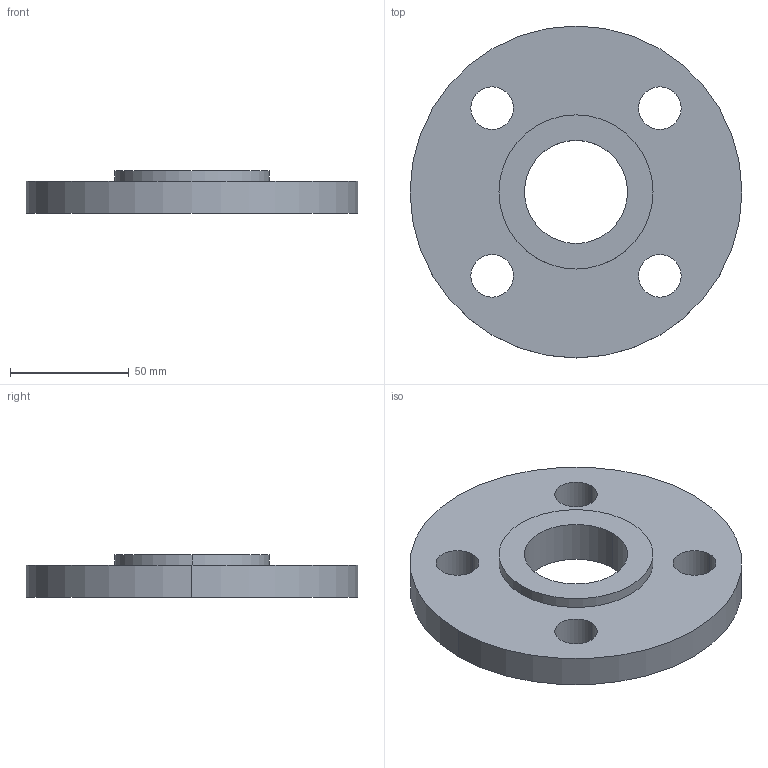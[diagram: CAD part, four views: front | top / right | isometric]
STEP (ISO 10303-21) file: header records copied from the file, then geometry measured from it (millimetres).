
FILE_DESCRIPTION (( 'STEP AP214' ), '1' );
FILE_NAME ('PN40 DN32 Type 01 - Type E Face.STEP', '2018-12-30T00:09:32', ( '' ), ( '' ), 'SwSTEP 2.0', 'SolidWorks 2019', '' );
FILE_SCHEMA (( 'AUTOMOTIVE_DESIGN' ));
Length unit declared in the file: millimetre
Products named in the file (1): PN40 DN32 Type 01 - Type E Face
Bounding box: 140 x 140 x 18 mm (x, y, z)
Volume: 182256.4 mm3; surface area: 38149.5 mm2
Topology: 1 solids, 1 shells, 17 faces, 42 edges, 28 vertices
Faces by surface type: cylinder 14, plane 3
Entity records: 578 total; most frequent: DIRECTION 106, CARTESIAN_POINT 88, ORIENTED_EDGE 84, AXIS2_PLACEMENT_3D 46, EDGE_CURVE 42, EDGE_LOOP 28, VERTEX_POINT 28, CIRCLE 28
